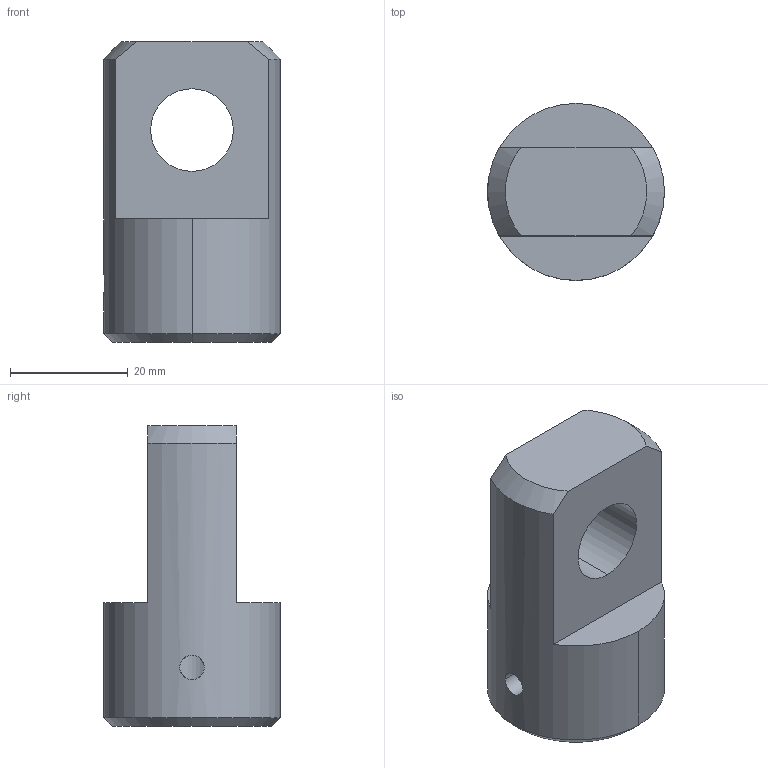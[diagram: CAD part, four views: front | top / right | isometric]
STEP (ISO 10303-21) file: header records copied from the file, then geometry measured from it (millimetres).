
FILE_DESCRIPTION (( 'STEP AP203' ), '1' );
FILE_NAME ('MJ0-GK.STEP', '2024-01-05T13:27:43', ( '' ), ( '' ), 'SwSTEP 2.0', 'SolidWorks 2022', '' );
FILE_SCHEMA (( 'CONFIG_CONTROL_DESIGN' ));
Length unit declared in the file: millimetre
Products named in the file (1): MJ0-GK
Bounding box: 30 x 30 x 51 mm (x, y, z)
Volume: 23744.2 mm3; surface area: 6814.4 mm2
Topology: 1 solids, 1 shells, 20 faces, 52 edges, 33 vertices
Faces by surface type: cylinder 8, cone 6, plane 6
Entity records: 821 total; most frequent: CARTESIAN_POINT 258, DIRECTION 102, ORIENTED_EDGE 100, EDGE_CURVE 50, AXIS2_PLACEMENT_3D 41, VERTEX_POINT 33, EDGE_LOOP 25, LINE 20
